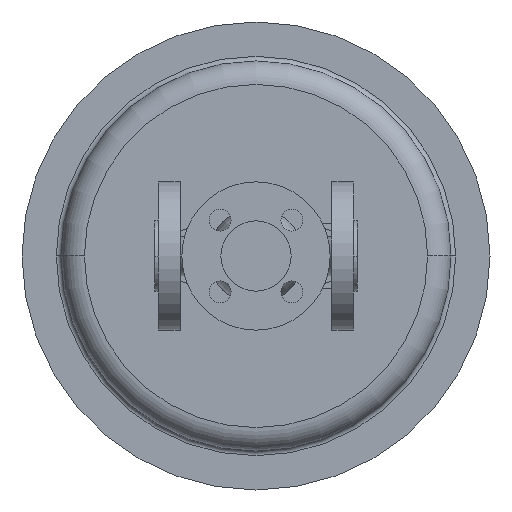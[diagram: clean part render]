
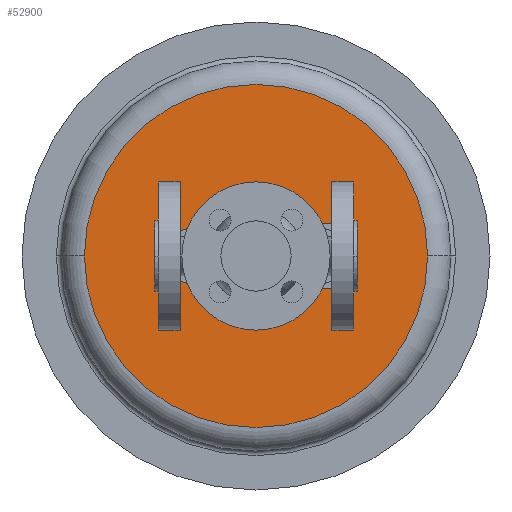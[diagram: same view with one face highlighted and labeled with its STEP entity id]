
A CAD part, front view. The second image highlights one B-rep face of the part: STEP entity #52900.
In plain terms, the highlighted planar face has unit normal (0, -1, 0).
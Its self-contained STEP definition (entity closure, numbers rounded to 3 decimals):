
#39130=CARTESIAN_POINT('',(-45.,356.,0.));
#39140=VERTEX_POINT('',#39130);
#39280=CARTESIAN_POINT('',(175.,356.,0.));
#39290=VERTEX_POINT('',#39280);
#39320=CARTESIAN_POINT('',(65.,356.,0.));
#39330=DIRECTION('',(0.,1.,0.));
#39340=DIRECTION('',(1.,0.,0.));
#39350=AXIS2_PLACEMENT_3D('',#39320,#39330,#39340);
#39360=CIRCLE('',#39350,110.);
#39370=EDGE_CURVE('',#39140,#39290,#39360,.T.);
#39950=CARTESIAN_POINT('',(130.,356.,0.));
#39960=VERTEX_POINT('',#39950);
#40120=CARTESIAN_POINT('',(100.,356.,0.));
#40130=VERTEX_POINT('',#40120);
#40160=CARTESIAN_POINT('',(115.,356.,0.));
#40170=DIRECTION('',(0.,1.,0.));
#40180=DIRECTION('',(1.,0.,0.));
#40190=AXIS2_PLACEMENT_3D('',#40160,#40170,#40180);
#40200=CIRCLE('',#40190,15.);
#40210=EDGE_CURVE('',#40130,#39960,#40200,.T.);
#40370=CARTESIAN_POINT('',(0.,356.,0.));
#40380=VERTEX_POINT('',#40370);
#40410=CARTESIAN_POINT('',(15.,356.,0.));
#40420=DIRECTION('',(0.,1.,0.));
#40430=DIRECTION('',(1.,0.,0.));
#40440=AXIS2_PLACEMENT_3D('',#40410,#40420,#40430);
#40450=CIRCLE('',#40440,15.);
#40460=CARTESIAN_POINT('',(30.,356.,0.));
#40470=VERTEX_POINT('',#40460);
#40480=EDGE_CURVE('',#40380,#40470,#40450,.T.);
#40770=CARTESIAN_POINT('',(46.55,356.,0.));
#40780=VERTEX_POINT('',#40770);
#40830=CARTESIAN_POINT('',(65.,356.,0.));
#40840=DIRECTION('',(0.,1.,0.));
#40850=DIRECTION('',(1.,0.,0.));
#40860=AXIS2_PLACEMENT_3D('',#40830,#40840,#40850);
#40870=CIRCLE('',#40860,18.45);
#40880=CARTESIAN_POINT('',(83.45,356.,0.));
#40890=VERTEX_POINT('',#40880);
#40900=EDGE_CURVE('',#40780,#40890,#40870,.T.);
#52650=CARTESIAN_POINT('',(120.,356.,0.));
#52660=DIRECTION('',(0.,-1.,0.));
#52670=DIRECTION('',(-1.,0.,0.));
#52680=AXIS2_PLACEMENT_3D('',#52650,#52660,#52670);
#52690=PLANE('',#52680);
#52700=ORIENTED_EDGE('',*,*,#40900,.T.);
#52710=EDGE_CURVE('',#40890,#40780,#40870,.T.);
#52720=ORIENTED_EDGE('',*,*,#52710,.T.);
#52730=EDGE_LOOP('',(#52720,#52700));
#52740=FACE_BOUND('',#52730,.T.);
#52750=ORIENTED_EDGE('',*,*,#40480,.T.);
#52760=EDGE_CURVE('',#40470,#40380,#40450,.T.);
#52770=ORIENTED_EDGE('',*,*,#52760,.T.);
#52780=EDGE_LOOP('',(#52770,#52750));
#52790=FACE_BOUND('',#52780,.T.);
#52800=EDGE_CURVE('',#39960,#40130,#40200,.T.);
#52810=ORIENTED_EDGE('',*,*,#52800,.T.);
#52820=ORIENTED_EDGE('',*,*,#40210,.T.);
#52830=EDGE_LOOP('',(#52820,#52810));
#52840=FACE_BOUND('',#52830,.T.);
#52850=EDGE_CURVE('',#39290,#39140,#39360,.T.);
#52860=ORIENTED_EDGE('',*,*,#52850,.F.);
#52870=ORIENTED_EDGE('',*,*,#39370,.F.);
#52880=EDGE_LOOP('',(#52870,#52860));
#52890=FACE_OUTER_BOUND('',#52880,.T.);
#52900=ADVANCED_FACE('',(#52740,#52790,#52840,#52890),#52690,.T.);
